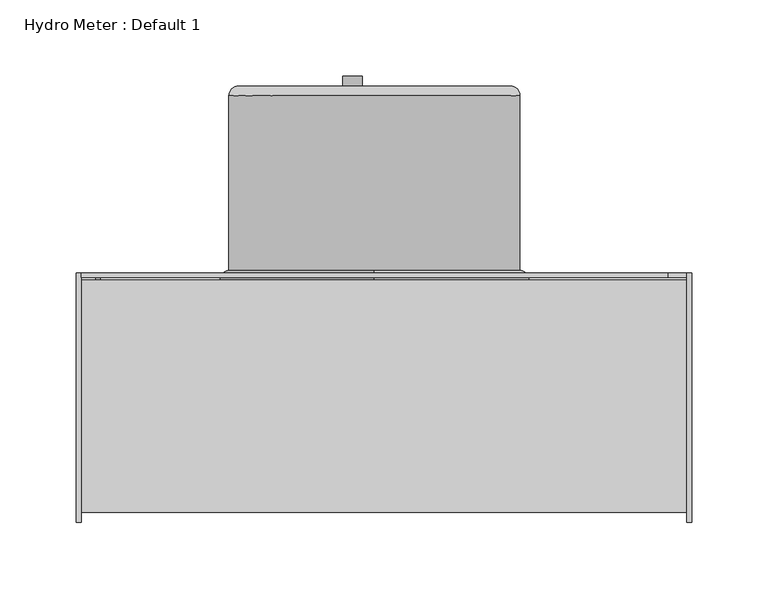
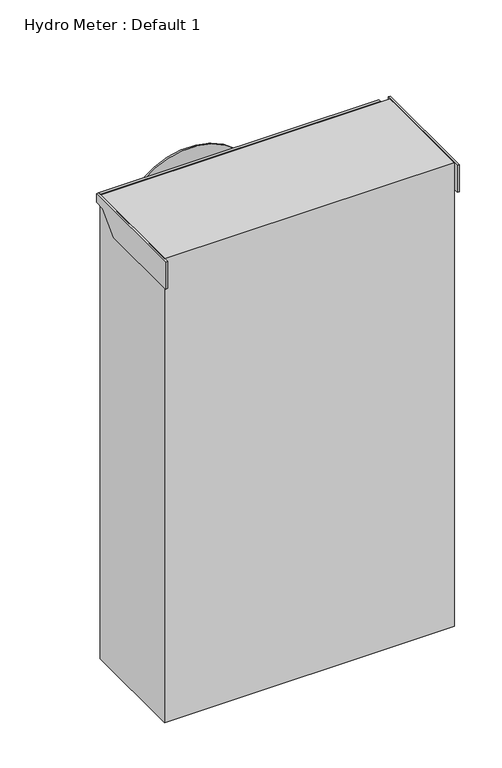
"""IFC4 building model written with IfcOpenShell, lengths in millimetres: proxy geometry, Hydro Meter : Default 1."""

from ifc_helpers import new_model, si_unit, point, frame, frame_2d, origin, place, context, project, spatial, polyline, circle_curve, ellipse_curve, trimmed, segment, composite_curve, outline, extrude, source, transform, mapped, element, save
from ifc_brep_helpers import plane_surface, cylinder_surface, revolved_surface, advanced_brep


def hydro_meter_default_1_85c93f45(model_context):
    return source(origin(), model_context, "Body", "SolidModel", [
        extrude(outline(composite_curve([segment(trimmed(circle_curve(frame_2d((1721.9414062, -5.820377)), 82.55), [point((1721.9414062, 76.729623))], [point((1721.9414062, -88.370377))], False, "CARTESIAN"), True, "CONTINUOUS"), segment(trimmed(circle_curve(frame_2d((1721.9414062, -5.820377)), 82.55), [point((1721.9414062, -88.370377))], [point((1721.9414062, 76.729623))], False, "CARTESIAN"), True, "CONTINUOUS")], self_intersect=False)), frame((0.0, 152.4, 0.0), z_axis=(0.0, 1.0, 0.0), x_axis=(0.0, 0.0, 1.0)), (0.0, 0.0, 1.0), 113.443562),
        advanced_brep(
        [(89.429623, 152.4, 1721.9414062), (-101.070377, 152.4, 1721.9414062), (87.842123, 152.4, 1721.9414062), (-99.482877, 152.4, 1721.9414062), (-101.070377, 273.05, 1721.9414062), (89.429623, 273.05, 1721.9414062), (-99.482877, 273.05, 1721.9414062), (87.842123, 273.05, 1721.9414062), (83.079623, 277.8125, 1721.9414062), (-94.720377, 277.8125, 1721.9414062), (83.079623, 279.4, 1721.9414062), (-94.720377, 279.4, 1721.9414062), (-13.9237197, 279.4, 1671.3092763), (-26.6237197, 279.4, 1671.3092763), (-22.8871167, 279.4, 1665.5219922), (-22.8871167, 279.4, 1652.2592763), (-17.6603228, 279.4, 1652.2592763), (-17.6603228, 279.4, 1665.5219922), (-26.6237197, 285.75, 1671.3092763), (-13.9237197, 285.75, 1671.3092763), (-17.6603228, 285.75, 1665.5219922), (-17.6603228, 285.75, 1654.3418459), (-22.8871167, 285.75, 1654.3418459), (-22.8871167, 285.75, 1665.5219922), (-22.8871167, 283.6674304, 1652.2592763), (-22.8871167, 282.575, 1660.5510914), (-22.8871167, 282.575, 1656.6674611), (-17.6603228, 283.6674304, 1652.2592763), (-17.6603228, 282.575, 1660.5510914), (-17.6603228, 282.575, 1656.6674611)],
        [
            (0, 1, circle_curve(frame((-5.820377, 152.4, 1721.9414062), z_axis=(0.0, -1.0, 0.0), x_axis=(-1.0, 0.0, 0.0)), 95.25)),
            (1, 0, circle_curve(frame((-5.820377, 152.4, 1721.9414062), z_axis=(0.0, -1.0, 0.0), x_axis=(-1.0, 0.0, 0.0)), 95.25)),
            (2, 3, circle_curve(frame((-5.820377, 152.4, 1721.9414062), z_axis=(0.0, 1.0, 0.0), x_axis=(-1.0, 0.0, 0.0)), 93.6625)),
            (3, 2, circle_curve(frame((-5.820377, 152.4, 1721.9414062), z_axis=(0.0, 1.0, 0.0), x_axis=(-1.0, 0.0, 0.0)), 93.6625)),
            (1, 4),
            (4, 5, circle_curve(frame((-5.820377, 273.05, 1721.9414062), z_axis=(0.0, -1.0, 0.0), x_axis=(-1.0, 0.0, 0.0)), 95.25)),
            (5, 0),
            (5, 4, circle_curve(frame((-5.820377, 273.05, 1721.9414062), z_axis=(0.0, -1.0, 0.0), x_axis=(-1.0, 0.0, 0.0)), 95.25)),
            (3, 6),
            (6, 7, circle_curve(frame((-5.820377, 273.05, 1721.9414062), z_axis=(0.0, 1.0, 0.0), x_axis=(-1.0, 0.0, 0.0)), 93.6625)),
            (7, 2),
            (7, 6, circle_curve(frame((-5.820377, 273.05, 1721.9414062), z_axis=(0.0, 1.0, 0.0), x_axis=(-1.0, 0.0, 0.0)), 93.6625)),
            (8, 7, circle_curve(frame((83.079623, 273.05, 1721.9414062), z_axis=(0.0, 0.0, -1.0), x_axis=(-1.0, 0.0, 0.0)), 4.7625)),
            (6, 9, circle_curve(frame((-94.720377, 273.05, 1721.9414062), z_axis=(0.0, 0.0, -1.0), x_axis=(1.0, 2.118024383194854e-12, 0.0)), 4.7625)),
            (9, 8, circle_curve(frame((-5.820377, 277.8125, 1721.9414062), z_axis=(-1.059012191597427e-12, 1.0, 0.0), x_axis=(1.0, 1.059012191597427e-12, 0.0)), 88.9)),
            (8, 9, circle_curve(frame((-5.820377, 277.8125, 1721.9414062), z_axis=(-1.059012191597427e-12, 1.0, 0.0), x_axis=(1.0, 1.059012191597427e-12, 0.0)), 88.9)),
            (5, 10, circle_curve(frame((83.079623, 273.05, 1721.9414062), z_axis=(0.0, 0.0, 1.0), x_axis=(-1.0, 0.0, 0.0)), 6.35)),
            (10, 11, circle_curve(frame((-5.820377, 279.4, 1721.9414062), z_axis=(1.059012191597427e-12, -1.0, 0.0), x_axis=(1.0, 1.059012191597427e-12, 0.0)), 88.9)),
            (11, 4, circle_curve(frame((-94.720377, 273.05, 1721.9414062), z_axis=(0.0, 0.0, 1.0), x_axis=(1.0, 2.118024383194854e-12, 0.0)), 6.35)),
            (11, 10, circle_curve(frame((-5.820377, 279.4, 1721.9414062), z_axis=(1.059012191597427e-12, -1.0, 0.0), x_axis=(1.0, 1.059012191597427e-12, 0.0)), 88.9)),
            (12, 13, circle_curve(frame((-20.2737197, 279.4, 1671.3092763), z_axis=(0.0, -1.0, 0.0), x_axis=(-1.0, 0.0, 0.0)), 6.35)),
            (13, 14, circle_curve(frame((-20.2737197, 279.4, 1671.3092763), z_axis=(0.0, -1.0, 0.0), x_axis=(-1.0, 0.0, 0.0)), 6.35)),
            (14, 15),
            (15, 16),
            (16, 17),
            (17, 12, circle_curve(frame((-20.2737197, 279.4, 1671.3092763), z_axis=(0.0, -1.0, 0.0), x_axis=(-1.0, 0.0, 0.0)), 6.35)),
            (18, 19, circle_curve(frame((-20.2737197, 285.75, 1671.3092763), z_axis=(0.0, 1.0, 0.0), x_axis=(-1.0, 0.0, 0.0)), 6.35)),
            (19, 20, circle_curve(frame((-20.2737197, 285.75, 1671.3092763), z_axis=(0.0, 1.0, 0.0), x_axis=(-1.0, 0.0, 0.0)), 6.35)),
            (20, 21),
            (21, 22),
            (22, 23),
            (23, 18, circle_curve(frame((-20.2737197, 285.75, 1671.3092763), z_axis=(0.0, 1.0, 0.0), x_axis=(-1.0, 0.0, 0.0)), 6.35)),
            (19, 12),
            (17, 20),
            (13, 18),
            (23, 14),
            (22, 24, circle_curve(frame((-22.8871167, 283.6674304, 1654.3418459), z_axis=(-1.0, 0.0, 0.0), x_axis=(0.0, 0.0, -1.0)), 2.0825696)),
            (24, 15),
            (25, 26, circle_curve(frame((-22.8871167, 282.575, 1658.6092763), z_axis=(1.0, 0.0, 0.0), x_axis=(0.0, 0.0, -1.0)), 1.9418151)),
            (26, 25, circle_curve(frame((-22.8871167, 282.575, 1658.6092763), z_axis=(1.0, 0.0, 0.0), x_axis=(0.0, 0.0, -1.0)), 1.9418151)),
            (16, 27),
            (27, 21, circle_curve(frame((-17.6603228, 283.6674304, 1654.3418459), z_axis=(1.0, 0.0, 0.0), x_axis=(0.0, 0.0, -1.0)), 2.0825696)),
            (28, 29, circle_curve(frame((-17.6603228, 282.575, 1658.6092763), z_axis=(-1.0, 0.0, 0.0), x_axis=(0.0, 0.0, -1.0)), 1.9418151)),
            (29, 28, circle_curve(frame((-17.6603228, 282.575, 1658.6092763), z_axis=(-1.0, 0.0, 0.0), x_axis=(0.0, 0.0, -1.0)), 1.9418151)),
            (27, 24),
            (25, 28),
            (29, 26),
        ],
        [
            plane_surface(frame((-101.070377, 152.4, 1721.9414062), z_axis=(0.0, -1.0, 0.0), x_axis=(0.0, 0.0, -1.0))),
            cylinder_surface(frame((-5.820377, 152.4, 1721.9414062), z_axis=(0.0, 1.0, 0.0), x_axis=(-1.0, 0.0, 0.0)), 95.25),
            revolved_surface(polyline([(-99.48287699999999, 152.4, 1721.9414062), (-99.48287699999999, 273.05, 1721.9414062)]), (-5.820377, 152.4, 1721.9414062), (0.0, -1.0, 0.0)),
            revolved_surface(trimmed(ellipse_curve(frame((83.079623, 273.05, 1721.9414062), z_axis=(0.0, 0.0, 1.0), x_axis=(-1.0, 0.0, 0.0)), 4.7625, 4.7625), [point((87.842123, 273.05, 1721.9414062))], [point((83.079623, 277.8125, 1721.9414062))], True, "CARTESIAN"), (-5.820377, 273.05, 1721.9414062), (1.059012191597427e-12, -1.0, 0.0)),
            revolved_surface(trimmed(ellipse_curve(frame((83.079623, 273.05, 1721.9414062), z_axis=(0.0, 0.0, -1.0), x_axis=(-1.0, 0.0, 0.0)), 6.35, 6.35), [point((83.079623, 279.4, 1721.9414062))], [point((89.429623, 273.05, 1721.9414062))], True, "CARTESIAN"), (-5.820377, 273.05, 1721.9414062), (1.059012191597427e-12, -1.0, 0.0)),
            plane_surface(frame((83.079623, 279.4, 1721.9414062), z_axis=(0.0, 1.0, 0.0), x_axis=(0.0, 0.0, -1.0))),
            plane_surface(frame((83.079623, 277.8125, 1721.9414062), z_axis=(0.0, -1.0, 0.0), x_axis=(0.0, 0.0, 1.0))),
            plane_surface(frame((-26.6237197, 285.75, 1671.3092763), z_axis=(0.0, 1.0, 0.0), x_axis=(0.0, 0.0, 1.0))),
            cylinder_surface(frame((-20.2737197, 279.4, 1671.3092763), z_axis=(0.0, 1.0, 0.0), x_axis=(-1.0, 0.0, 0.0)), 6.35),
            plane_surface(frame((-22.8871167, 285.75, 1666.8343807), z_axis=(-1.0, 0.0, 0.0), x_axis=(0.0, 1.0, 0.0))),
            plane_surface(frame((-17.6603228, 285.75, 1666.8343807), z_axis=(1.0, 0.0, 0.0), x_axis=(0.0, -1.0, 0.0))),
            cylinder_surface(frame((-17.6603228, 283.6674304, 1654.3418459), z_axis=(-1.0, 0.0, 0.0), x_axis=(0.0, 0.0, -1.0)), 2.0825696),
            plane_surface(frame((-22.8871167, 283.6674304, 1652.2592763), z_axis=(0.0, 0.0, -1.0), x_axis=(1.0, 0.0, 0.0))),
            revolved_surface(polyline([(-17.6603228, 282.575, 1656.6674612), (-22.8871167, 282.575, 1656.6674612)]), (-5.820377, 282.575, 1658.6092763), (1.0, 0.0, 0.0)),
        ],
        [
            (0, [[1, 2], [3, 4]]),
            (1, [[-2, 5, 6, 7]]),
            (1, [[-1, -7, 8, -5]]),
            (2, [[-4, 9, 10, 11]]),
            (2, [[-3, -11, 12, -9]]),
            (3, [[13, -10, 14, 15]]),
            (3, [[-13, 16, -14, -12]]),
            (4, [[17, 18, 19, -8]]),
            (4, [[-17, -6, -19, 20]]),
            (5, [[-18, -20], [21, 22, 23, 24, 25, 26]]),
            (6, [[-15, -16]]),
            (7, [[27, 28, 29, 30, 31, 32]]),
            (8, [[33, -26, 34, -28]]),
            (8, [[35, -32, 36, -22]]),
            (8, [[-27, -35, -21, -33]]),
            (9, [[37, 38, -23, -36, -31], [39, 40]]),
            (10, [[41, 42, -29, -34, -25], [43, 44]]),
            (11, [[-37, -30, -42, 45]]),
            (12, [[-38, -45, -41, -24]]),
            (13, [[-39, 46, -44, 47]]),
            (13, [[-40, -47, -43, -46]]),
        ],
    ),
        advanced_brep(
        [(-5.820377, 152.4, 1626.6914062), (-5.820377, 152.4, 1817.1914062), (-5.820377, 158.75, 1817.1914062), (-5.820377, 158.75, 1626.6914062), (-5.820377, 152.4, 1620.3414062), (-5.820377, 152.4, 1823.5414062)],
        [
            (0, 1, circle_curve(frame((-5.820377, 152.4, 1721.9414062), z_axis=(0.0, -1.0, 0.0), x_axis=(0.0, 0.0, 1.0)), 95.25)),
            (1, 2),
            (2, 3, circle_curve(frame((-5.820377, 158.75, 1721.9414062), z_axis=(0.0, 1.0, 0.0), x_axis=(0.0, 0.0, 1.0)), 95.25)),
            (3, 0),
            (1, 0, circle_curve(frame((-5.820377, 152.4, 1721.9414062), z_axis=(0.0, -1.0, 0.0), x_axis=(0.0, 0.0, 1.0)), 95.25)),
            (3, 2, circle_curve(frame((-5.820377, 158.75, 1721.9414062), z_axis=(0.0, 1.0, 0.0), x_axis=(0.0, 0.0, 1.0)), 95.25)),
            (4, 5, circle_curve(frame((-5.820377, 152.4, 1721.9414062), z_axis=(0.0, -1.0, 0.0), x_axis=(0.0, 0.0, 1.0)), 101.6)),
            (5, 1),
            (0, 4),
            (5, 4, circle_curve(frame((-5.820377, 152.4, 1721.9414062), z_axis=(0.0, -1.0, 0.0), x_axis=(0.0, 0.0, 1.0)), 101.6)),
            (2, 5, circle_curve(frame((-5.820377, 152.4, 1817.1914062), z_axis=(1.0, 0.0, 0.0), x_axis=(0.0, 0.0, -1.0)), 6.35)),
            (4, 3, circle_curve(frame((-5.820377, 152.4, 1626.6914062), z_axis=(1.0, 0.0, 0.0), x_axis=(0.0, 0.0, 1.0)), 6.35)),
        ],
        [
            revolved_surface(polyline([(-5.820377, 158.75, 1817.1914062), (-5.820377, 152.4, 1817.1914062)]), (-5.820377, 152.4, 1721.9414062), (0.0, 1.0, 0.0)),
            plane_surface(frame((-5.820377, 152.4, 1721.9414062), z_axis=(0.0, -1.0, 0.0), x_axis=(0.0, 0.0, 1.0))),
            revolved_surface(trimmed(ellipse_curve(frame((-5.820377, 152.4, 1817.1914062), z_axis=(-1.0, 0.0, 0.0), x_axis=(0.0, 0.0, -1.0)), 6.35, 6.35), [point((-5.820377, 152.4, 1823.5414062))], [point((-5.820377, 158.75, 1817.1914062))], True, "CARTESIAN"), (-5.820377, 152.4, 1721.9414062), (0.0, 1.0, 0.0)),
        ],
        [
            (0, [[1, 2, 3, 4]]),
            (0, [[5, -4, 6, -2]]),
            (1, [[7, 8, -1, 9]]),
            (1, [[10, -9, -5, -8]]),
            (2, [[-3, 11, -7, 12]]),
            (2, [[-6, -12, -10, -11]]),
        ],
    ),
        extrude(outline(polyline([(-188.3623944, 141.9434164), (-188.3623944, 157.0632812), (201.7657306, 157.0632812), (201.7657306, 141.9434164), (198.5907306, 141.9434164), (198.5907306, 153.8882812), (-185.1873944, 153.8882812), (-185.1873944, 141.9434164), (-188.3623944, 141.9434164)])), frame((0.0, 0.0, 1219.2), z_axis=(0.0, 0.0, 1.0), x_axis=(1.0, 0.0, 0.0)), (0.0, 0.0, 1.0), 335.1609375),
        extrude(outline(polyline([(186.0686855, 157.0632812), (186.0686855, 153.8882812), (-197.7094395, 153.8882813), (-197.7094395, 157.0632812), (186.0686855, 157.0632812)])), frame((0.0, 0.0, 1876.821875), z_axis=(0.0, 0.0, 1.0), x_axis=(1.0, 0.0, 0.0)), (0.0, 0.0, 1.0), 12.7),
        extrude(outline(polyline([(141.9434164, 1876.821875), (115.7882813, 1850.6667399), (-6.35, 1850.6667399), (-6.35, 1889.521875), (157.0632813, 1889.521875), (157.0632813, 1876.821875), (141.9434164, 1876.821875)])), frame((198.5907306, 0.0, 0.0), z_axis=(1.0, 0.0, 0.0), x_axis=(0.0, 1.0, 0.0)), (0.0, 0.0, 1.0), 3.175),
        extrude(outline(polyline([(141.9434164, 1876.821875), (115.7882812, 1850.6667399), (-6.35, 1850.6667399), (-6.35, 1889.521875), (157.0632812, 1889.521875), (157.0632812, 1876.821875), (141.9434164, 1876.821875)])), frame((-200.8844395, 0.0, 0.0), z_axis=(1.0, 0.0, 0.0), x_axis=(0.0, 1.0, 0.0)), (0.0, 0.0, 1.0), 3.175),
        extrude(outline(polyline([(163.4132812, 1308.1), (169.7632812, 1301.75), (169.7632812, 1289.05), (163.4132812, 1282.7), (157.0632812, 1282.7), (157.0632812, 1308.1), (163.4132812, 1308.1)]), holes=[composite_curve([segment(trimmed(circle_curve(frame_2d((163.4132812, 1295.4)), 3.1560846), [point((160.2571966, 1295.4))], [point((166.5693659, 1295.4))], True, "CARTESIAN"), True, "CONTINUOUS"), segment(trimmed(circle_curve(frame_2d((163.4132812, 1295.4)), 3.1560846), [point((166.5693659, 1295.4))], [point((160.2571966, 1295.4))], True, "CARTESIAN"), True, "CONTINUOUS")], self_intersect=False)]), frame((-7.407877, 0.0, 0.0), z_axis=(1.0, 0.0, 0.0), x_axis=(0.0, 1.0, 0.0)), (0.0, 0.0, 1.0), 3.175),
        extrude(outline(polyline([(198.5907306, 0.0), (-198.5907306, 0.0), (-198.5907306, 152.4), (198.5907306, 152.4), (198.5907306, 0.0)])), frame((0.0, 0.0, 1219.2), z_axis=(0.0, 0.0, 1.0), x_axis=(1.0, 0.0, 0.0)), (0.0, 0.0, 1.0), 670.321875),
    ])


if __name__ == "__main__":
    model = new_model("IFC4")
    model_context = context("Model", 3, world=origin())
    ifc_project = project(units=[si_unit("LENGTHUNIT", "METRE", prefix="MILLI")], contexts=[model_context])
    site = spatial("IfcSite", under=ifc_project)
    building = spatial("IfcBuilding", under=site)
    placement = place(None, origin())
    hydro_meter_default_1_shape = hydro_meter_default_1_85c93f45(model_context)
    element("IfcBuildingElementProxy", 1, Name="Hydro Meter : Default 1", ObjectType="Hydro Meter : Default 1", at=placement, inside=building, context=model_context, shape_type="MappedRepresentation", body=[
        mapped(hydro_meter_default_1_shape, transform((0.0, 0.0, 0.0), x_axis=(1.0, 0.0, 0.0), y_axis=(0.0, 1.0, 0.0), z_axis=(0.0, 0.0, 1.0))),
    ])
    save(model, "model.ifc")
